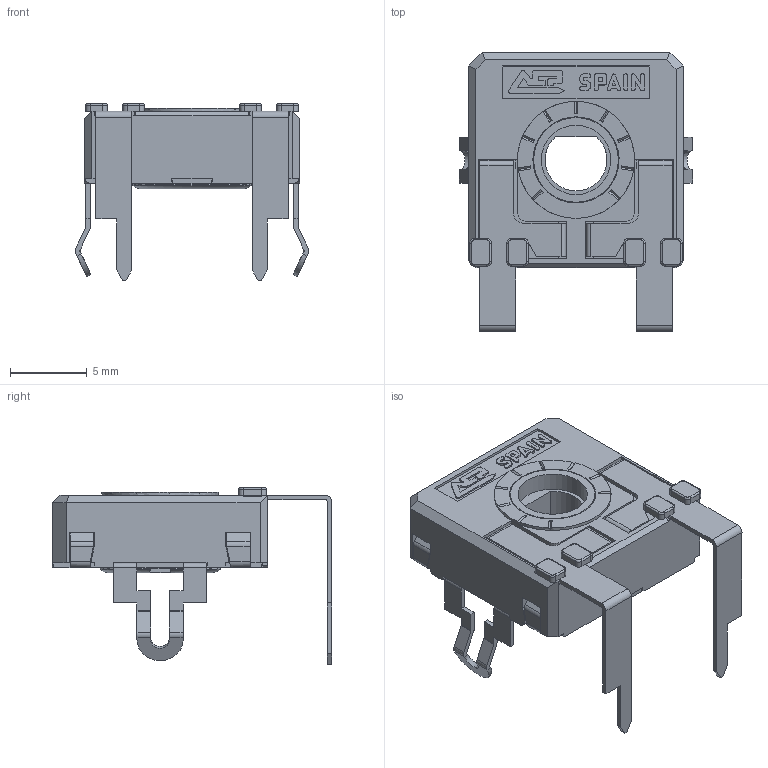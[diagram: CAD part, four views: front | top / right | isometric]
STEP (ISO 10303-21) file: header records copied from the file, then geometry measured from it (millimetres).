
FILE_DESCRIPTION(/* description */ (''),/* implementation_level */ '2;1');
FILE_NAME(/* name */ 'C:\Users\CEM\Desktop\ENVIAR\TRANSICION 3D CATALOGOS\RS14FVD11 RT-RO.stp',/* time_stamp */ '2025-12-10T10:37:52+01:00',/* author */ ('CEM'),/* organization */ (''),/* preprocessor_version */ 'ST-DEVELOPER v16.13',/* originating_system */ 'Autodesk Inventor 2018',/* authorisation */ '');
FILE_SCHEMA (('AUTOMOTIVE_DESIGN { 1 0 10303 214 3 1 1 }'));
Length unit declared in the file: millimetre
Products named in the file (1): CARCASA CA14 PGA
Bounding box: 15.16 x 18.15 x 11.5 mm (x, y, z)
Volume: 535.8 mm3; surface area: 1570.5 mm2
Topology: 1 solids, 1 shells, 717 faces, 2027 edges, 1303 vertices
Faces by surface type: plane 522, cylinder 158, torus 23, bspline 8, cone 6
Full cylindrical faces by diameter (mm): 4.5 x1, 5.5 x1, 5.6 x1, 5.752 x1, 6.8 x1, 7.6 x1
Entity records: 23319 total; most frequent: CARTESIAN_POINT 4240, ORIENTED_EDGE 4024, DIRECTION 3808, EDGE_CURVE 2012, LINE 1580, VECTOR 1580, VERTEX_POINT 1298, AXIS2_PLACEMENT_3D 1114
